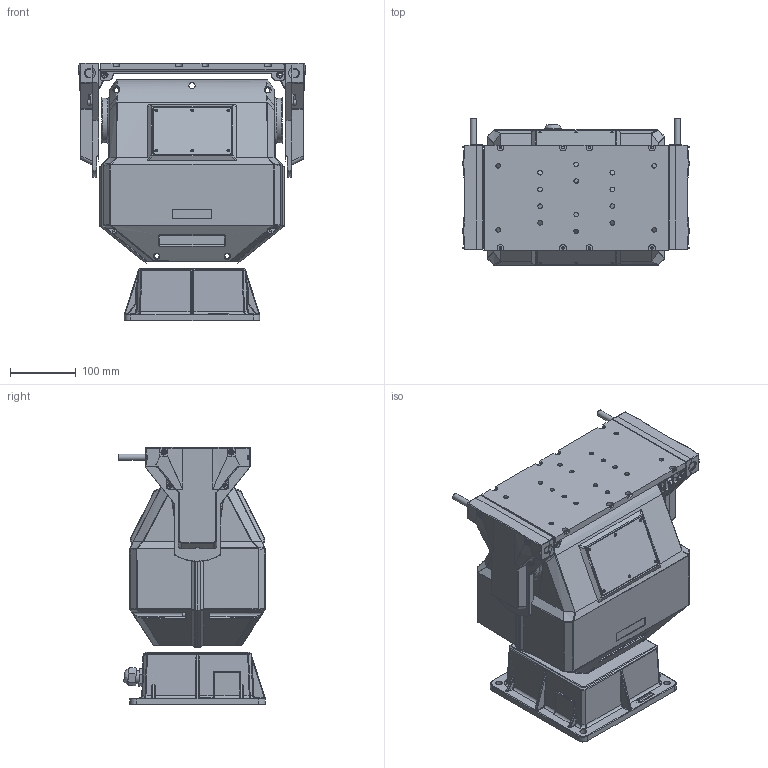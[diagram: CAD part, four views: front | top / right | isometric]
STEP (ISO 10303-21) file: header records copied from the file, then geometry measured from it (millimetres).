
FILE_DESCRIPTION (( 'STEP AP203' ), '1' );
FILE_NAME ('3081.STEP', '2026-01-14T17:04:38', ( '' ), ( '' ), 'SwSTEP 2.0', 'SolidWorks 2020', '' );
FILE_SCHEMA (( 'CONFIG_CONTROL_DESIGN' ));
Products named in the file (1): 3081
Bounding box: 345.4 x 223 x 392.2 mm (x, y, z)
Surface area: 691222.9 mm2 (no closed solid volume)
Topology: 0 solids, 79 shells, 2619 faces, 8117 edges, 5415 vertices
Faces by surface type: cylinder 1064, plane 718, bspline 372, torus 274, sphere 136, cone 55
Full cylindrical faces by diameter (mm): 2.5 x10, 3.2 x10, 3.3 x4, 3.5 x27, 4 x12, 5.2 x16, 6 x4, 7 x32, 7.5 x10, 8.5 x4, 9.4 x2, 10 x8, 11 x1, 13 x12, 20 x1
Entity records: 140650 total; most frequent: CARTESIAN_POINT 76952, ORIENTED_EDGE 12821, DIRECTION 11529, EDGE_CURVE 7810, VERTEX_POINT 5361, AXIS2_PLACEMENT_3D 4133, VECTOR 3263, LINE 3263
